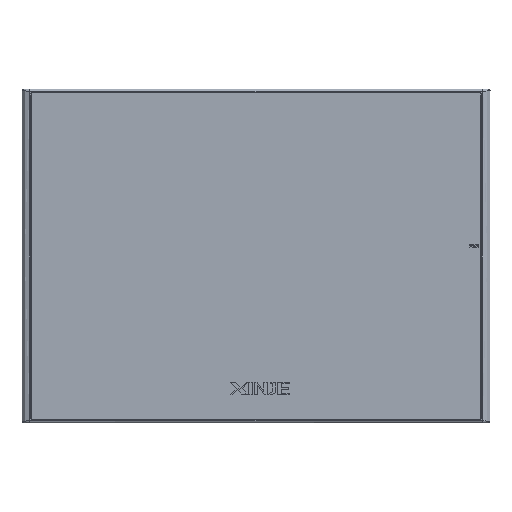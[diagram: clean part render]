
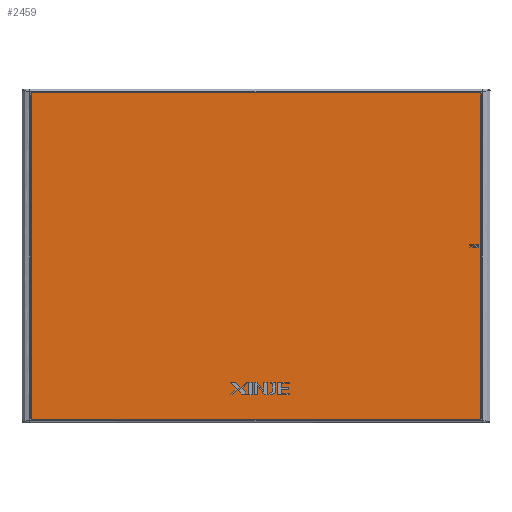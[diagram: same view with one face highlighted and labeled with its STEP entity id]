
A CAD part, front view. The second image highlights one B-rep face of the part: STEP entity #2459.
In plain terms, the highlighted planar face has unit normal (0, -1, 0).
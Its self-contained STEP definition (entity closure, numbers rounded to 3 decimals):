
#284=(
BOUNDED_CURVE()
B_SPLINE_CURVE(2,(#54063,#54064,#54065,#54066,#54067),.UNSPECIFIED.,.F.,
 .F.)
B_SPLINE_CURVE_WITH_KNOTS((3,2,3),(-681.827,-681.027,-680.228),
 .UNSPECIFIED.)
CURVE()
GEOMETRIC_REPRESENTATION_ITEM()
RATIONAL_B_SPLINE_CURVE((1.,0.924,1.,0.924,1.))
REPRESENTATION_ITEM('')
);
#288=(
BOUNDED_CURVE()
B_SPLINE_CURVE(2,(#54075,#54076,#54077),.UNSPECIFIED.,.F.,.F.)
B_SPLINE_CURVE_WITH_KNOTS((3,3),(-680.228,-538.142),
 .UNSPECIFIED.)
CURVE()
GEOMETRIC_REPRESENTATION_ITEM()
RATIONAL_B_SPLINE_CURVE((1.,1.,1.))
REPRESENTATION_ITEM('')
);
#291=(
BOUNDED_CURVE()
B_SPLINE_CURVE(2,(#54085,#54086,#54087,#54088,#54089),.UNSPECIFIED.,.F.,
 .F.)
B_SPLINE_CURVE_WITH_KNOTS((3,2,3),(-538.142,-537.48,
-536.818),.UNSPECIFIED.)
CURVE()
GEOMETRIC_REPRESENTATION_ITEM()
RATIONAL_B_SPLINE_CURVE((1.,0.924,1.,0.924,1.))
REPRESENTATION_ITEM('')
);
#294=(
BOUNDED_CURVE()
B_SPLINE_CURVE(2,(#54095,#54096,#54097),.UNSPECIFIED.,.F.,.F.)
B_SPLINE_CURVE_WITH_KNOTS((3,3),(-536.818,-340.776),
 .UNSPECIFIED.)
CURVE()
GEOMETRIC_REPRESENTATION_ITEM()
RATIONAL_B_SPLINE_CURVE((1.,1.,1.))
REPRESENTATION_ITEM('')
);
#297=(
BOUNDED_CURVE()
B_SPLINE_CURVE(2,(#54105,#54106,#54107,#54108,#54109),.UNSPECIFIED.,.F.,
 .F.)
B_SPLINE_CURVE_WITH_KNOTS((3,2,3),(-340.776,-340.114,
-339.452),.UNSPECIFIED.)
CURVE()
GEOMETRIC_REPRESENTATION_ITEM()
RATIONAL_B_SPLINE_CURVE((1.,0.924,1.,0.924,1.))
REPRESENTATION_ITEM('')
);
#300=(
BOUNDED_CURVE()
B_SPLINE_CURVE(2,(#54115,#54116,#54117),.UNSPECIFIED.,.F.,.F.)
B_SPLINE_CURVE_WITH_KNOTS((3,3),(-339.452,-197.366),
 .UNSPECIFIED.)
CURVE()
GEOMETRIC_REPRESENTATION_ITEM()
RATIONAL_B_SPLINE_CURVE((1.,1.,1.))
REPRESENTATION_ITEM('')
);
#303=(
BOUNDED_CURVE()
B_SPLINE_CURVE(2,(#54125,#54126,#54127,#54128,#54129),.UNSPECIFIED.,.F.,
 .F.)
B_SPLINE_CURVE_WITH_KNOTS((3,2,3),(-197.366,-196.704,
-196.042),.UNSPECIFIED.)
CURVE()
GEOMETRIC_REPRESENTATION_ITEM()
RATIONAL_B_SPLINE_CURVE((1.,0.924,1.,0.924,1.))
REPRESENTATION_ITEM('')
);
#305=(
BOUNDED_CURVE()
B_SPLINE_CURVE(2,(#54133,#54134,#54135),.UNSPECIFIED.,.F.,.F.)
B_SPLINE_CURVE_WITH_KNOTS((3,3),(-196.042,0.),.UNSPECIFIED.)
CURVE()
GEOMETRIC_REPRESENTATION_ITEM()
RATIONAL_B_SPLINE_CURVE((1.,1.,1.))
REPRESENTATION_ITEM('')
);
#2459=ADVANCED_FACE('',(#3930),#26150,.T.);
#3930=FACE_OUTER_BOUND('',#5642,.T.);
#5642=EDGE_LOOP('',(#14062,#14063,#14064,#14065,#14066,#14067,#14068,#14069));
#14062=ORIENTED_EDGE('',*,*,#18269,.T.);
#14063=ORIENTED_EDGE('',*,*,#18273,.T.);
#14064=ORIENTED_EDGE('',*,*,#18276,.T.);
#14065=ORIENTED_EDGE('',*,*,#18279,.T.);
#14066=ORIENTED_EDGE('',*,*,#18282,.T.);
#14067=ORIENTED_EDGE('',*,*,#18285,.T.);
#14068=ORIENTED_EDGE('',*,*,#18288,.T.);
#14069=ORIENTED_EDGE('',*,*,#18290,.T.);
#18269=EDGE_CURVE('',#24994,#24993,#284,.T.);
#18273=EDGE_CURVE('',#24993,#24996,#288,.T.);
#18276=EDGE_CURVE('',#24996,#24998,#291,.T.);
#18279=EDGE_CURVE('',#24998,#25000,#294,.T.);
#18282=EDGE_CURVE('',#25000,#25002,#297,.T.);
#18285=EDGE_CURVE('',#25002,#25004,#300,.T.);
#18288=EDGE_CURVE('',#25004,#25006,#303,.T.);
#18290=EDGE_CURVE('',#25006,#24994,#305,.T.);
#24993=VERTEX_POINT('',#54042);
#24994=VERTEX_POINT('',#54043);
#24996=VERTEX_POINT('',#54045);
#24998=VERTEX_POINT('',#54047);
#25000=VERTEX_POINT('',#54049);
#25002=VERTEX_POINT('',#54051);
#25004=VERTEX_POINT('',#54053);
#25006=VERTEX_POINT('',#54055);
#26150=PLANE('',#27314);
#27314=AXIS2_PLACEMENT_3D('',#54039,#28463,$);
#28463=DIRECTION('',(0.,-1.,0.));
#54039=CARTESIAN_POINT('',(226.255,0.305,15.939));
#54042=CARTESIAN_POINT('',(4.405,0.305,-2.461));
#54043=CARTESIAN_POINT('',(4.905,0.305,-1.961));
#54045=CARTESIAN_POINT('',(4.405,0.305,-144.661));
#54047=CARTESIAN_POINT('',(4.905,0.305,-145.161));
#54049=CARTESIAN_POINT('',(201.105,0.305,-145.161));
#54051=CARTESIAN_POINT('',(201.605,0.305,-144.661));
#54053=CARTESIAN_POINT('',(201.605,0.305,-2.461));
#54055=CARTESIAN_POINT('',(201.105,0.305,-1.961));
#54063=CARTESIAN_POINT('',(4.905,0.305,-1.961));
#54064=CARTESIAN_POINT('',(4.698,0.305,-1.961));
#54065=CARTESIAN_POINT('',(4.552,0.305,-2.107));
#54066=CARTESIAN_POINT('',(4.405,0.305,-2.254));
#54067=CARTESIAN_POINT('',(4.405,0.305,-2.461));
#54075=CARTESIAN_POINT('',(4.405,0.305,-2.461));
#54076=CARTESIAN_POINT('',(4.405,0.305,-73.561));
#54077=CARTESIAN_POINT('',(4.405,0.305,-144.661));
#54085=CARTESIAN_POINT('',(4.405,0.305,-144.661));
#54086=CARTESIAN_POINT('',(4.405,0.305,-144.868));
#54087=CARTESIAN_POINT('',(4.552,0.305,-145.014));
#54088=CARTESIAN_POINT('',(4.698,0.305,-145.161));
#54089=CARTESIAN_POINT('',(4.905,0.305,-145.161));
#54095=CARTESIAN_POINT('',(4.905,0.305,-145.161));
#54096=CARTESIAN_POINT('',(103.005,0.305,-145.161));
#54097=CARTESIAN_POINT('',(201.105,0.305,-145.161));
#54105=CARTESIAN_POINT('',(201.105,0.305,-145.161));
#54106=CARTESIAN_POINT('',(201.313,0.305,-145.161));
#54107=CARTESIAN_POINT('',(201.459,0.305,-145.014));
#54108=CARTESIAN_POINT('',(201.605,0.305,-144.868));
#54109=CARTESIAN_POINT('',(201.605,0.305,-144.661));
#54115=CARTESIAN_POINT('',(201.605,0.305,-144.661));
#54116=CARTESIAN_POINT('',(201.605,0.305,-73.561));
#54117=CARTESIAN_POINT('',(201.605,0.305,-2.461));
#54125=CARTESIAN_POINT('',(201.605,0.305,-2.461));
#54126=CARTESIAN_POINT('',(201.605,0.305,-2.254));
#54127=CARTESIAN_POINT('',(201.459,0.305,-2.107));
#54128=CARTESIAN_POINT('',(201.313,0.305,-1.961));
#54129=CARTESIAN_POINT('',(201.105,0.305,-1.961));
#54133=CARTESIAN_POINT('',(201.105,0.305,-1.961));
#54134=CARTESIAN_POINT('',(103.005,0.305,-1.961));
#54135=CARTESIAN_POINT('',(4.905,0.305,-1.961));
